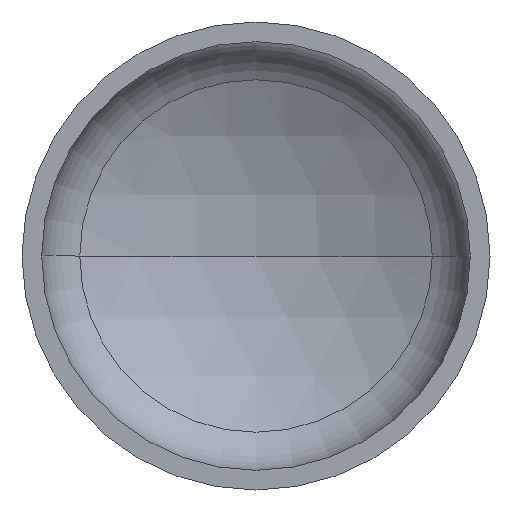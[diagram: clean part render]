
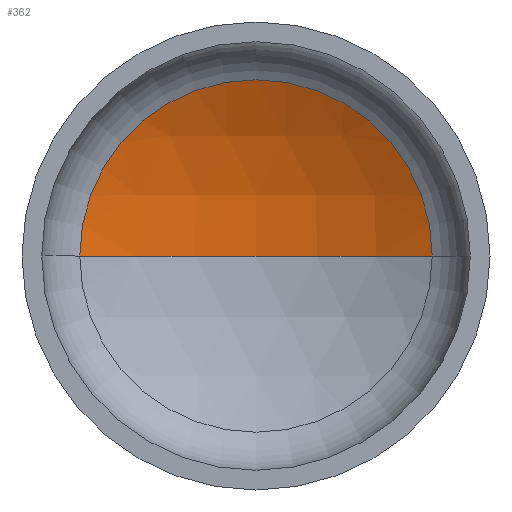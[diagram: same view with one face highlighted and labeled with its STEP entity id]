
A CAD part, front view. The second image highlights one B-rep face of the part: STEP entity #362.
In plain terms, the highlighted spherical face has radius 2240 mm.
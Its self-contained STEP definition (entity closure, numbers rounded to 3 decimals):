
#1 = AXIS2_PLACEMENT_3D ( 'NONE', #314, #346, #75 ) ;
#3 = AXIS2_PLACEMENT_3D ( 'NONE', #133, #138, #328 ) ;
#18 = AXIS2_PLACEMENT_3D ( 'NONE', #193, #368, #317 ) ;
#22 = AXIS2_PLACEMENT_3D ( 'NONE', #100, #104, #107 ) ;
#24 = EDGE_LOOP ( 'NONE', ( #62, #42, #159 ) ) ;
#42 = ORIENTED_EDGE ( 'NONE', *, *, #334, .T. ) ;
#56 = SPHERICAL_SURFACE ( 'NONE', #1, 2240. ) ;
#62 = ORIENTED_EDGE ( 'NONE', *, *, #367, .F. ) ;
#75 = DIRECTION ( 'NONE',  ( -1., 0., 0. ) ) ;
#79 = FACE_OUTER_BOUND ( 'NONE', #24, .T. ) ;
#100 = CARTESIAN_POINT ( 'NONE',  ( 0., 454.382, 0. ) ) ;
#104 = DIRECTION ( 'NONE',  ( 0., -1., 0. ) ) ;
#107 = DIRECTION ( 'NONE',  ( 1., 0., 0. ) ) ;
#119 = VERTEX_POINT ( 'NONE', #197 ) ;
#132 = VERTEX_POINT ( 'NONE', #282 ) ;
#133 = CARTESIAN_POINT ( 'NONE',  ( 0., -1521.933, 0. ) ) ;
#138 = DIRECTION ( 'NONE',  ( 0., 0., 1. ) ) ;
#142 = VERTEX_POINT ( 'NONE', #275 ) ;
#159 = ORIENTED_EDGE ( 'NONE', *, *, #327, .T. ) ;
#193 = CARTESIAN_POINT ( 'NONE',  ( 0., -1521.933, 0. ) ) ;
#194 = CIRCLE ( 'NONE', #22, 1054.409 ) ;
#197 = CARTESIAN_POINT ( 'NONE',  ( 1054.409, 454.382, 0. ) ) ;
#250 = CIRCLE ( 'NONE', #18, 2240. ) ;
#275 = CARTESIAN_POINT ( 'NONE',  ( -1054.409, 454.382, 0. ) ) ;
#282 = CARTESIAN_POINT ( 'NONE',  ( 0., 718.067, 0. ) ) ;
#299 = CIRCLE ( 'NONE', #3, 2240. ) ;
#314 = CARTESIAN_POINT ( 'NONE',  ( 0., -1521.933, 0. ) ) ;
#317 = DIRECTION ( 'NONE',  ( -1., 0., 0. ) ) ;
#327 = EDGE_CURVE ( 'NONE', #119, #142, #194, .T. ) ;
#328 = DIRECTION ( 'NONE',  ( 1., 0., 0. ) ) ;
#334 = EDGE_CURVE ( 'NONE', #132, #119, #250, .T. ) ;
#346 = DIRECTION ( 'NONE',  ( 0., 0., -1. ) ) ;
#362 = ADVANCED_FACE ( 'NONE', ( #79 ), #56, .F. ) ;
#367 = EDGE_CURVE ( 'NONE', #132, #142, #299, .T. ) ;
#368 = DIRECTION ( 'NONE',  ( 0., 0., -1. ) ) ;
